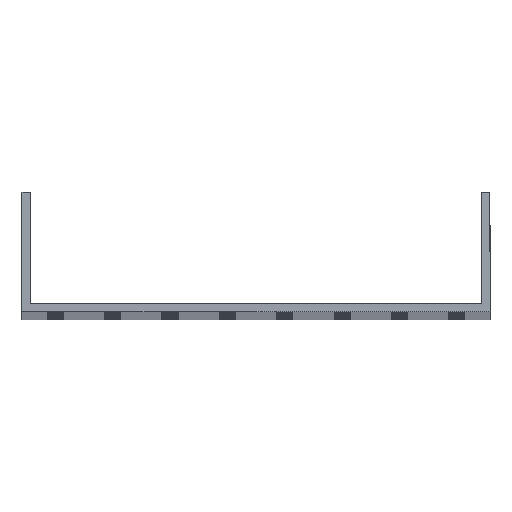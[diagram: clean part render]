
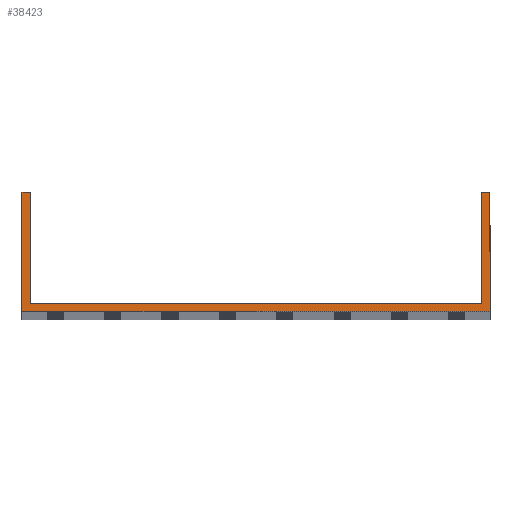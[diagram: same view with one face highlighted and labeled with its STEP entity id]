
A CAD part, top view. The second image highlights one B-rep face of the part: STEP entity #38423.
In plain terms, the highlighted planar face has unit normal (0, 0, 1).
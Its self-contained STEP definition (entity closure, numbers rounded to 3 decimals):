
#445 = ORIENTED_EDGE ( 'NONE', *, *, #54928, .T. ) ;
#2640 = CARTESIAN_POINT ( 'NONE',  ( -102., 52., 1000. ) ) ;
#5582 = EDGE_CURVE ( 'NONE', #23635, #36439, #15841, .T. ) ;
#7662 = DIRECTION ( 'NONE',  ( 0., 1., 0. ) ) ;
#7698 = CARTESIAN_POINT ( 'NONE',  ( -102., 52., 1000. ) ) ;
#9475 = EDGE_CURVE ( 'NONE', #52507, #9897, #27585, .T. ) ;
#9897 = VERTEX_POINT ( 'NONE', #2640 ) ;
#10082 = DIRECTION ( 'NONE',  ( 1., 0., 0. ) ) ;
#11826 = VECTOR ( 'NONE', #59019, 1000. ) ;
#11835 = LINE ( 'NONE', #26401, #18168 ) ;
#13046 = ORIENTED_EDGE ( 'NONE', *, *, #48247, .T. ) ;
#13342 = ORIENTED_EDGE ( 'NONE', *, *, #22384, .F. ) ;
#13450 = CARTESIAN_POINT ( 'NONE',  ( 102., 0., 1000. ) ) ;
#14190 = CARTESIAN_POINT ( 'NONE',  ( -98.5, 52., 1000. ) ) ;
#15841 = LINE ( 'NONE', #55599, #47559 ) ;
#18168 = VECTOR ( 'NONE', #32031, 1000. ) ;
#19043 = DIRECTION ( 'NONE',  ( 0., -1., 0. ) ) ;
#20817 = ORIENTED_EDGE ( 'NONE', *, *, #25392, .F. ) ;
#22384 = EDGE_CURVE ( 'NONE', #52507, #23635, #41536, .T. ) ;
#22425 = LINE ( 'NONE', #58503, #22630 ) ;
#22630 = VECTOR ( 'NONE', #42630, 1000. ) ;
#23635 = VERTEX_POINT ( 'NONE', #41530 ) ;
#25321 = DIRECTION ( 'NONE',  ( 0., 0., 1. ) ) ;
#25392 = EDGE_CURVE ( 'NONE', #36439, #52898, #53043, .T. ) ;
#26301 = CARTESIAN_POINT ( 'NONE',  ( -98.5, 52., 1000. ) ) ;
#26401 = CARTESIAN_POINT ( 'NONE',  ( -102., 0., 1000. ) ) ;
#27585 = LINE ( 'NONE', #7698, #11826 ) ;
#27785 = CARTESIAN_POINT ( 'NONE',  ( -102., 0., 1000. ) ) ;
#29949 = LINE ( 'NONE', #44223, #31215 ) ;
#31215 = VECTOR ( 'NONE', #19043, 1000. ) ;
#31344 = CARTESIAN_POINT ( 'NONE',  ( -102., 52., 1000. ) ) ;
#32031 = DIRECTION ( 'NONE',  ( 1., 0., 0. ) ) ;
#32084 = ORIENTED_EDGE ( 'NONE', *, *, #9475, .T. ) ;
#34929 = CARTESIAN_POINT ( 'NONE',  ( 0., 0., 1000. ) ) ;
#35934 = VERTEX_POINT ( 'NONE', #61707 ) ;
#36032 = DIRECTION ( 'NONE',  ( 1., 0., 0. ) ) ;
#36439 = VERTEX_POINT ( 'NONE', #54863 ) ;
#38055 = EDGE_LOOP ( 'NONE', ( #13342, #32084, #445, #51553, #13046, #46794, #20817, #49789 ) ) ;
#38423 = ADVANCED_FACE ( 'NONE', ( #40881 ), #39900, .T. ) ;
#39900 = PLANE ( 'NONE',  #39928 ) ;
#39928 = AXIS2_PLACEMENT_3D ( 'NONE', #34929, #25321, #10082 ) ;
#40881 = FACE_OUTER_BOUND ( 'NONE', #38055, .T. ) ;
#41530 = CARTESIAN_POINT ( 'NONE',  ( -98.5, 3.5, 1000. ) ) ;
#41536 = LINE ( 'NONE', #26301, #54776 ) ;
#42630 = DIRECTION ( 'NONE',  ( 0., 1., 0. ) ) ;
#42781 = CARTESIAN_POINT ( 'NONE',  ( 98.5, 52., 1000. ) ) ;
#42981 = EDGE_CURVE ( 'NONE', #58015, #43096, #11835, .T. ) ;
#43096 = VERTEX_POINT ( 'NONE', #13450 ) ;
#44223 = CARTESIAN_POINT ( 'NONE',  ( -102., 52., 1000. ) ) ;
#46586 = DIRECTION ( 'NONE',  ( -1., 0., 0. ) ) ;
#46794 = ORIENTED_EDGE ( 'NONE', *, *, #46967, .T. ) ;
#46967 = EDGE_CURVE ( 'NONE', #35934, #52898, #56864, .T. ) ;
#47559 = VECTOR ( 'NONE', #36032, 1000. ) ;
#48247 = EDGE_CURVE ( 'NONE', #43096, #35934, #22425, .T. ) ;
#49789 = ORIENTED_EDGE ( 'NONE', *, *, #5582, .F. ) ;
#49888 = CARTESIAN_POINT ( 'NONE',  ( 98.5, 52., 1000. ) ) ;
#51142 = DIRECTION ( 'NONE',  ( 0., -1., 0. ) ) ;
#51553 = ORIENTED_EDGE ( 'NONE', *, *, #42981, .T. ) ;
#52507 = VERTEX_POINT ( 'NONE', #14190 ) ;
#52898 = VERTEX_POINT ( 'NONE', #49888 ) ;
#53043 = LINE ( 'NONE', #42781, #56653 ) ;
#54776 = VECTOR ( 'NONE', #51142, 1000. ) ;
#54863 = CARTESIAN_POINT ( 'NONE',  ( 98.5, 3.5, 1000. ) ) ;
#54928 = EDGE_CURVE ( 'NONE', #9897, #58015, #29949, .T. ) ;
#55599 = CARTESIAN_POINT ( 'NONE',  ( -102., 3.5, 1000. ) ) ;
#56653 = VECTOR ( 'NONE', #7662, 1000. ) ;
#56864 = LINE ( 'NONE', #31344, #61867 ) ;
#58015 = VERTEX_POINT ( 'NONE', #27785 ) ;
#58503 = CARTESIAN_POINT ( 'NONE',  ( 102., 52., 1000. ) ) ;
#59019 = DIRECTION ( 'NONE',  ( -1., 0., 0. ) ) ;
#61707 = CARTESIAN_POINT ( 'NONE',  ( 102., 52., 1000. ) ) ;
#61867 = VECTOR ( 'NONE', #46586, 1000. ) ;
